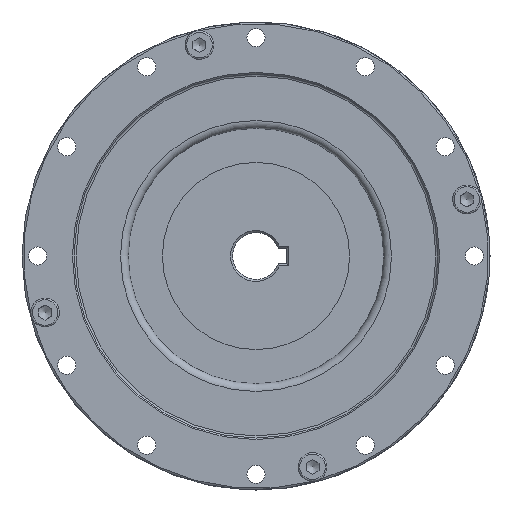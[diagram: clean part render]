
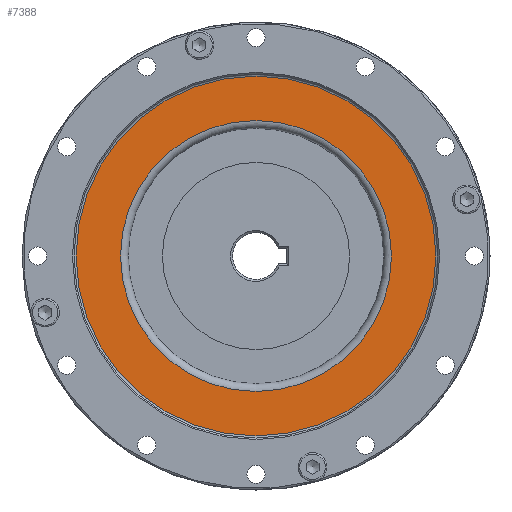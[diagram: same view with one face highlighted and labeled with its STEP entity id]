
A CAD part, left-side view. The second image highlights one B-rep face of the part: STEP entity #7388.
In plain terms, the highlighted planar face has unit normal (-1, 0, 0).
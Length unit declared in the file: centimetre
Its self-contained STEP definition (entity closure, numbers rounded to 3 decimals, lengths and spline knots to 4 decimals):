
#846=PLANE($,#8520);
#1141=FACE_BOUND($,#2317,.T.);
#1589=FACE_OUTER_BOUND($,#2316,.T.);
#2316=EDGE_LOOP($,(#6361));
#2317=EDGE_LOOP($,(#6362));
#3045=CIRCLE($,#8519,3.46);
#3046=CIRCLE($,#8521,2.606);
#3672=VERTEX_POINT($,#13155);
#3673=VERTEX_POINT($,#13158);
#4578=EDGE_CURVE($,#3672,#3672,#3045,.T.);
#4579=EDGE_CURVE($,#3673,#3673,#3046,.T.);
#6361=ORIENTED_EDGE($,*,*,#4578,.F.);
#6362=ORIENTED_EDGE($,*,*,#4579,.T.);
#7388=ADVANCED_FACE($,(#1589,#1141),#846,.T.);
#8519=AXIS2_PLACEMENT_3D($,#13156,#10911,#10912);
#8520=AXIS2_PLACEMENT_3D($,#13157,#10913,#10914);
#8521=AXIS2_PLACEMENT_3D($,#13159,#10915,#10916);
#10911=DIRECTION('center_axis',(1.,0.,0.));
#10912=DIRECTION('ref_axis',(0.,1.,0.));
#10913=DIRECTION('center_axis',(-1.,0.,0.));
#10914=DIRECTION('ref_axis',(0.,-1.,0.));
#10915=DIRECTION('center_axis',(1.,0.,0.));
#10916=DIRECTION('ref_axis',(0.,1.,0.));
#13155=CARTESIAN_POINT('',(-0.0284,3.46,0.));
#13156=CARTESIAN_POINT('Origin',(-0.0284,0.,
0.));
#13157=CARTESIAN_POINT('Origin',(-0.0284,3.033,0.));
#13158=CARTESIAN_POINT('',(-0.0284,2.606,0.));
#13159=CARTESIAN_POINT('Origin',(-0.0284,0.,
0.));
